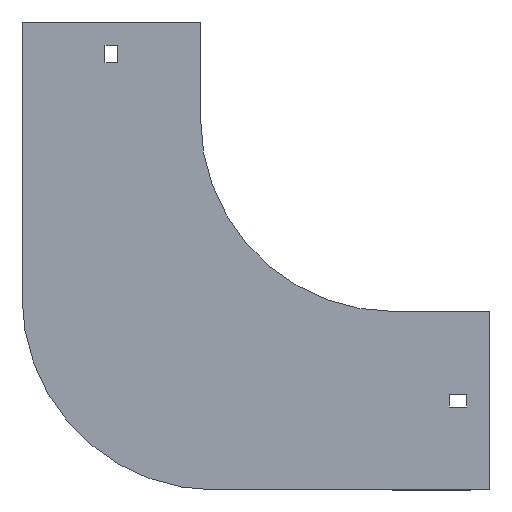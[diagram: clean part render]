
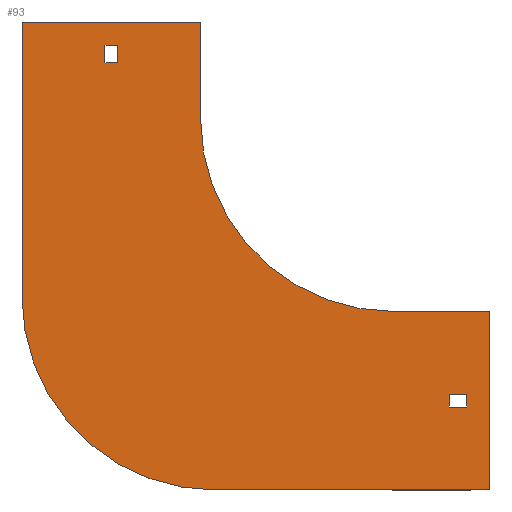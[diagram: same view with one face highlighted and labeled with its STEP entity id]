
A CAD part, front view. The second image highlights one B-rep face of the part: STEP entity #93.
In plain terms, the highlighted planar face has unit normal (0, -1, 0).
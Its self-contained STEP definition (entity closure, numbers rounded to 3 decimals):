
#11 = CARTESIAN_POINT ( 'NONE',  ( 29., 0., -143. ) ) ;
#12 = FACE_BOUND ( 'NONE', #1817, .T. ) ;
#35 = EDGE_CURVE ( 'NONE', #56, #881, #1687, .T. ) ;
#56 = VERTEX_POINT ( 'NONE', #475 ) ;
#57 = DIRECTION ( 'NONE',  ( 0., 0., -1. ) ) ;
#65 = ORIENTED_EDGE ( 'NONE', *, *, #92, .T. ) ;
#92 = EDGE_CURVE ( 'NONE', #672, #1206, #1026, .T. ) ;
#93 = ADVANCED_FACE ( 'NONE', ( #1652, #1951, #12 ), #1340, .T. ) ;
#98 = CARTESIAN_POINT ( 'NONE',  ( 0., 0., 0. ) ) ;
#102 = DIRECTION ( 'NONE',  ( 0., 0., 1. ) ) ;
#110 = CARTESIAN_POINT ( 'NONE',  ( -143., 0., 29. ) ) ;
#123 = LINE ( 'NONE', #589, #1698 ) ;
#130 = ORIENTED_EDGE ( 'NONE', *, *, #1117, .T. ) ;
#151 = LINE ( 'NONE', #718, #1346 ) ;
#159 = ORIENTED_EDGE ( 'NONE', *, *, #1546, .T. ) ;
#161 = ORIENTED_EDGE ( 'NONE', *, *, #1662, .F. ) ;
#171 = CARTESIAN_POINT ( 'NONE',  ( -149.5, 0., 29. ) ) ;
#199 = CARTESIAN_POINT ( 'NONE',  ( 50., 0., -100. ) ) ;
#203 = DIRECTION ( 'NONE',  ( 0., 0., -1. ) ) ;
#204 = CARTESIAN_POINT ( 'NONE',  ( 29., 0., -143. ) ) ;
#234 = ORIENTED_EDGE ( 'NONE', *, *, #35, .F. ) ;
#255 = LINE ( 'NONE', #1713, #1876 ) ;
#283 = EDGE_LOOP ( 'NONE', ( #1863, #577, #234, #1623, #161, #1088, #1163, #676 ) ) ;
#296 = CARTESIAN_POINT ( 'NONE',  ( -192.5, 0., -92.5 ) ) ;
#359 = DIRECTION ( 'NONE',  ( -1., 0., 0. ) ) ;
#367 = LINE ( 'NONE', #809, #936 ) ;
#389 = CARTESIAN_POINT ( 'NONE',  ( -149.5, 0., 38. ) ) ;
#405 = VECTOR ( 'NONE', #1025, 1000. ) ;
#423 = DIRECTION ( 'NONE',  ( 1., 0., 0. ) ) ;
#426 = ORIENTED_EDGE ( 'NONE', *, *, #1528, .F. ) ;
#430 = LINE ( 'NONE', #1019, #1292 ) ;
#446 = EDGE_CURVE ( 'NONE', #1167, #1690, #1926, .T. ) ;
#448 = CARTESIAN_POINT ( 'NONE',  ( 0., 0., -100. ) ) ;
#449 = DIRECTION ( 'NONE',  ( -1., 0., 0. ) ) ;
#475 = CARTESIAN_POINT ( 'NONE',  ( -92.5, 0., -192.5 ) ) ;
#500 = VECTOR ( 'NONE', #1063, 1000. ) ;
#521 = EDGE_CURVE ( 'NONE', #1057, #692, #1787, .T. ) ;
#539 = CARTESIAN_POINT ( 'NONE',  ( -100., 0., 0. ) ) ;
#576 = DIRECTION ( 'NONE',  ( 1., 0., 0. ) ) ;
#577 = ORIENTED_EDGE ( 'NONE', *, *, #700, .F. ) ;
#589 = CARTESIAN_POINT ( 'NONE',  ( -192.5, 0., 50. ) ) ;
#615 = LINE ( 'NONE', #1209, #778 ) ;
#668 = CARTESIAN_POINT ( 'NONE',  ( -192.5, 0., -92.5 ) ) ;
#672 = VERTEX_POINT ( 'NONE', #1102 ) ;
#676 = ORIENTED_EDGE ( 'NONE', *, *, #1478, .F. ) ;
#692 = VERTEX_POINT ( 'NONE', #939 ) ;
#700 = EDGE_CURVE ( 'NONE', #881, #1669, #1595, .T. ) ;
#703 = VERTEX_POINT ( 'NONE', #539 ) ;
#718 = CARTESIAN_POINT ( 'NONE',  ( 50., 0., -192.5 ) ) ;
#741 = DIRECTION ( 'NONE',  ( 1., 0., 0. ) ) ;
#748 = CARTESIAN_POINT ( 'NONE',  ( 0., 0., 0. ) ) ;
#778 = VECTOR ( 'NONE', #576, 1000. ) ;
#805 = VERTEX_POINT ( 'NONE', #1935 ) ;
#808 = CIRCLE ( 'NONE', #1741, 100. ) ;
#809 = CARTESIAN_POINT ( 'NONE',  ( 29., 0., -149.5 ) ) ;
#817 = EDGE_CURVE ( 'NONE', #1669, #1071, #123, .T. ) ;
#881 = VERTEX_POINT ( 'NONE', #296 ) ;
#887 = DIRECTION ( 'NONE',  ( 0., 0., 1. ) ) ;
#901 = VERTEX_POINT ( 'NONE', #448 ) ;
#936 = VECTOR ( 'NONE', #57, 1000. ) ;
#939 = CARTESIAN_POINT ( 'NONE',  ( 38., 0., -149.5 ) ) ;
#961 = CARTESIAN_POINT ( 'NONE',  ( -192.5, 0., 50. ) ) ;
#972 = CARTESIAN_POINT ( 'NONE',  ( 38., 0., -143. ) ) ;
#976 = EDGE_CURVE ( 'NONE', #1353, #672, #1536, .T. ) ;
#1019 = CARTESIAN_POINT ( 'NONE',  ( 50., 0., -100. ) ) ;
#1025 = DIRECTION ( 'NONE',  ( 1., 0., 0. ) ) ;
#1026 = LINE ( 'NONE', #171, #500 ) ;
#1041 = VERTEX_POINT ( 'NONE', #199 ) ;
#1042 = ORIENTED_EDGE ( 'NONE', *, *, #521, .F. ) ;
#1055 = VERTEX_POINT ( 'NONE', #1854 ) ;
#1057 = VERTEX_POINT ( 'NONE', #1101 ) ;
#1063 = DIRECTION ( 'NONE',  ( 0., 0., 1. ) ) ;
#1069 = CARTESIAN_POINT ( 'NONE',  ( -149.5, 0., 29. ) ) ;
#1071 = VERTEX_POINT ( 'NONE', #1523 ) ;
#1088 = ORIENTED_EDGE ( 'NONE', *, *, #1648, .F. ) ;
#1090 = EDGE_CURVE ( 'NONE', #703, #901, #808, .T. ) ;
#1101 = CARTESIAN_POINT ( 'NONE',  ( 29., 0., -149.5 ) ) ;
#1102 = CARTESIAN_POINT ( 'NONE',  ( -149.5, 0., 29. ) ) ;
#1106 = DIRECTION ( 'NONE',  ( 0., -1., 0. ) ) ;
#1117 = EDGE_CURVE ( 'NONE', #1055, #1353, #255, .T. ) ;
#1119 = VECTOR ( 'NONE', #887, 1000. ) ;
#1131 = CARTESIAN_POINT ( 'NONE',  ( -92.5, 0., -92.5 ) ) ;
#1149 = AXIS2_PLACEMENT_3D ( 'NONE', #1131, #1434, #102 ) ;
#1163 = ORIENTED_EDGE ( 'NONE', *, *, #1090, .F. ) ;
#1167 = VERTEX_POINT ( 'NONE', #972 ) ;
#1177 = VECTOR ( 'NONE', #449, 1000. ) ;
#1188 = CARTESIAN_POINT ( 'NONE',  ( -149.5, 0., 38. ) ) ;
#1206 = VERTEX_POINT ( 'NONE', #389 ) ;
#1209 = CARTESIAN_POINT ( 'NONE',  ( 0., 0., -100. ) ) ;
#1243 = VECTOR ( 'NONE', #203, 1000. ) ;
#1281 = EDGE_CURVE ( 'NONE', #805, #56, #151, .T. ) ;
#1287 = ORIENTED_EDGE ( 'NONE', *, *, #1573, .F. ) ;
#1289 = DIRECTION ( 'NONE',  ( 0., 0., 1. ) ) ;
#1292 = VECTOR ( 'NONE', #1622, 1000. ) ;
#1305 = VECTOR ( 'NONE', #1289, 1000. ) ;
#1311 = CARTESIAN_POINT ( 'NONE',  ( 38., 0., -149.5 ) ) ;
#1340 = PLANE ( 'NONE',  #1584 ) ;
#1346 = VECTOR ( 'NONE', #1760, 1000. ) ;
#1348 = DIRECTION ( 'NONE',  ( 0., 0., -1. ) ) ;
#1353 = VERTEX_POINT ( 'NONE', #110 ) ;
#1371 = VECTOR ( 'NONE', #359, 1000. ) ;
#1410 = DIRECTION ( 'NONE',  ( 0., 0., -1. ) ) ;
#1420 = DIRECTION ( 'NONE',  ( 0., 0., -1. ) ) ;
#1434 = DIRECTION ( 'NONE',  ( 0., 1., 0. ) ) ;
#1478 = EDGE_CURVE ( 'NONE', #1071, #703, #1678, .T. ) ;
#1519 = LINE ( 'NONE', #1188, #1586 ) ;
#1520 = EDGE_LOOP ( 'NONE', ( #65, #159, #130, #1904 ) ) ;
#1523 = CARTESIAN_POINT ( 'NONE',  ( -100., 0., 50. ) ) ;
#1528 = EDGE_CURVE ( 'NONE', #1690, #1057, #367, .T. ) ;
#1536 = LINE ( 'NONE', #1069, #1371 ) ;
#1546 = EDGE_CURVE ( 'NONE', #1206, #1055, #1519, .T. ) ;
#1573 = EDGE_CURVE ( 'NONE', #692, #1167, #1667, .T. ) ;
#1584 = AXIS2_PLACEMENT_3D ( 'NONE', #748, #1825, #1348 ) ;
#1586 = VECTOR ( 'NONE', #741, 1000. ) ;
#1595 = LINE ( 'NONE', #668, #1305 ) ;
#1622 = DIRECTION ( 'NONE',  ( 0., 0., -1. ) ) ;
#1623 = ORIENTED_EDGE ( 'NONE', *, *, #1281, .F. ) ;
#1648 = EDGE_CURVE ( 'NONE', #901, #1041, #615, .T. ) ;
#1652 = FACE_BOUND ( 'NONE', #1520, .T. ) ;
#1662 = EDGE_CURVE ( 'NONE', #1041, #805, #430, .T. ) ;
#1667 = LINE ( 'NONE', #1311, #1119 ) ;
#1669 = VERTEX_POINT ( 'NONE', #961 ) ;
#1678 = LINE ( 'NONE', #1688, #1243 ) ;
#1687 = CIRCLE ( 'NONE', #1149, 100. ) ;
#1688 = CARTESIAN_POINT ( 'NONE',  ( -100., 0., 50. ) ) ;
#1690 = VERTEX_POINT ( 'NONE', #204 ) ;
#1698 = VECTOR ( 'NONE', #423, 1000. ) ;
#1713 = CARTESIAN_POINT ( 'NONE',  ( -143., 0., 29. ) ) ;
#1741 = AXIS2_PLACEMENT_3D ( 'NONE', #98, #1106, #1420 ) ;
#1760 = DIRECTION ( 'NONE',  ( -1., 0., 0. ) ) ;
#1787 = LINE ( 'NONE', #1796, #405 ) ;
#1796 = CARTESIAN_POINT ( 'NONE',  ( 29., 0., -149.5 ) ) ;
#1804 = ORIENTED_EDGE ( 'NONE', *, *, #446, .F. ) ;
#1817 = EDGE_LOOP ( 'NONE', ( #1287, #1042, #426, #1804 ) ) ;
#1825 = DIRECTION ( 'NONE',  ( 0., -1., 0. ) ) ;
#1854 = CARTESIAN_POINT ( 'NONE',  ( -143., 0., 38. ) ) ;
#1863 = ORIENTED_EDGE ( 'NONE', *, *, #817, .F. ) ;
#1876 = VECTOR ( 'NONE', #1410, 1000. ) ;
#1904 = ORIENTED_EDGE ( 'NONE', *, *, #976, .T. ) ;
#1926 = LINE ( 'NONE', #11, #1177 ) ;
#1935 = CARTESIAN_POINT ( 'NONE',  ( 50., 0., -192.5 ) ) ;
#1951 = FACE_OUTER_BOUND ( 'NONE', #283, .T. ) ;
